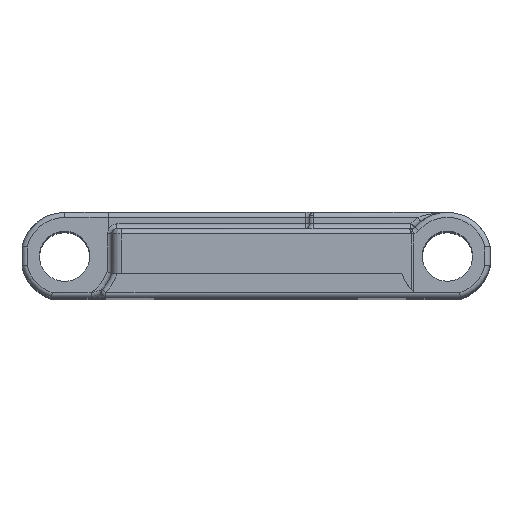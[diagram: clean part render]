
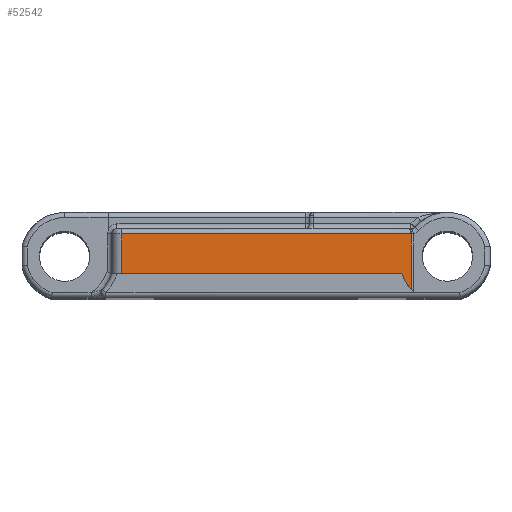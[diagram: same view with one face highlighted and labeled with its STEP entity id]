
A CAD part, top view. The second image highlights one B-rep face of the part: STEP entity #52542.
In plain terms, the highlighted planar face has unit normal (0, 0, 1).
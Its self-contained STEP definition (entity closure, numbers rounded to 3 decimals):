
#9105=DIRECTION('',(1.,0.,0.));
#9106=VECTOR('',#9105,27.88);
#9107=CARTESIAN_POINT('',(-13.366,-1.75,50.75));
#9108=LINE('',#9107,#9106);
#9150=DIRECTION('',(0.,1.,0.));
#9151=VECTOR('',#9150,5.538);
#9152=CARTESIAN_POINT('',(15.45,-3.325,50.75));
#9153=LINE('',#9152,#9151);
#9158=DIRECTION('',(0.,1.,0.));
#9159=VECTOR('',#9158,3.963);
#9160=CARTESIAN_POINT('',(-13.366,-1.75,50.75));
#9161=LINE('',#9160,#9159);
#9162=CARTESIAN_POINT('',(19.25,0.,50.75));
#9163=DIRECTION('',(0.,0.,1.));
#9164=DIRECTION('',(-0.938,-0.347,0.));
#9165=AXIS2_PLACEMENT_3D('',#9162,#9163,#9164);
#11513=CARTESIAN_POINT('',(15.417,3.213,50.75));
#11514=DIRECTION('',(0.,0.,-1.));
#11515=DIRECTION('',(0.033,-0.999,0.));
#11516=AXIS2_PLACEMENT_3D('',#11513,#11514,#11515);
#11518=DIRECTION('',(-1.,0.,0.));
#11519=VECTOR('',#11518,28.784);
#11520=CARTESIAN_POINT('',(15.417,2.213,50.75));
#11521=LINE('',#11520,#11519);
#38421=CARTESIAN_POINT('',(-13.366,-1.75,50.75));
#38422=CARTESIAN_POINT('',(-13.366,2.213,50.75));
#38423=VERTEX_POINT('',#38421);
#38424=VERTEX_POINT('',#38422);
#38523=CARTESIAN_POINT('',(15.417,2.213,50.75));
#38524=VERTEX_POINT('',#38523);
#44162=CARTESIAN_POINT('',(14.514,-1.75,50.75));
#44164=VERTEX_POINT('',#44162);
#44169=CARTESIAN_POINT('',(15.45,-3.325,50.75));
#44170=VERTEX_POINT('',#44169);
#44209=CARTESIAN_POINT('',(15.45,2.214,50.75));
#44210=VERTEX_POINT('',#44209);
#52525=CARTESIAN_POINT('',(-13.366,-1.75,50.75));
#52526=DIRECTION('',(0.,0.,1.));
#52527=DIRECTION('',(1.,0.,0.));
#52528=AXIS2_PLACEMENT_3D('',#52525,#52526,#52527);
#52529=PLANE('',#52528);
#52531=ORIENTED_EDGE('',*,*,#52530,.T.);
#52533=ORIENTED_EDGE('',*,*,#52532,.F.);
#52535=ORIENTED_EDGE('',*,*,#52534,.F.);
#52536=ORIENTED_EDGE('',*,*,#52515,.F.);
#52538=ORIENTED_EDGE('',*,*,#52537,.F.);
#52539=ORIENTED_EDGE('',*,*,#52456,.F.);
#52540=EDGE_LOOP('',(#52531,#52533,#52535,#52536,#52538,#52539));
#52541=FACE_OUTER_BOUND('',#52540,.F.);
#9166=CIRCLE('',#9165,5.049);
#11517=CIRCLE('',#11516,1.);
#52456=EDGE_CURVE('',#38423,#44164,#9108,.T.);
#52515=EDGE_CURVE('',#44170,#44210,#9153,.T.);
#52530=EDGE_CURVE('',#38423,#38424,#9161,.T.);
#52532=EDGE_CURVE('',#38524,#38424,#11521,.T.);
#52534=EDGE_CURVE('',#44210,#38524,#11517,.T.);
#52537=EDGE_CURVE('',#44164,#44170,#9166,.T.);
#52542=ADVANCED_FACE('',(#52541),#52529,.T.);
